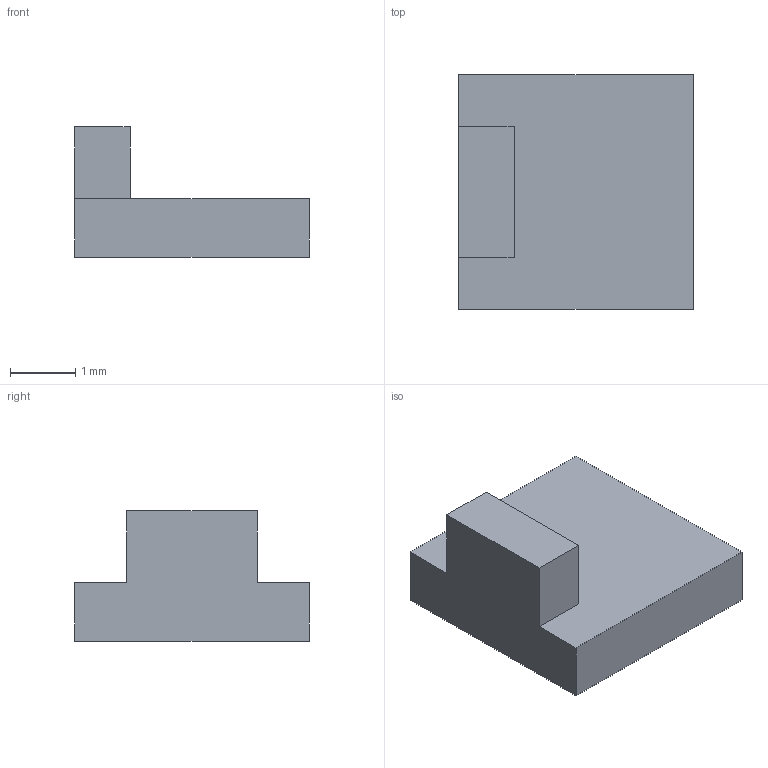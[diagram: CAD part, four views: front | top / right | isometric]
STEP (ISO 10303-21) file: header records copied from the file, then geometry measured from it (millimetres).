
FILE_DESCRIPTION(('Open CASCADE Model'),'2;1');
FILE_NAME('Open CASCADE Shape Model','2026-09-09T11:51:00',('Author'),( 'Open CASCADE'),'Open CASCADE STEP processor 7.7','Open CASCADE 7.7' ,'Unknown');
FILE_SCHEMA(('AUTOMOTIVE_DESIGN { 1 0 10303 214 1 1 1 1 }'));
Length unit declared in the file: millimetre
Products named in the file (1): Open CASCADE STEP translator 7.7 1
Bounding box: 3.6 x 3.6 x 2 mm (x, y, z)
Volume: 13.5 mm3; surface area: 45.1 mm2
Topology: 1 solids, 1 shells, 10 faces, 24 edges, 16 vertices
Faces by surface type: plane 10
Entity records: 610 total; most frequent: CARTESIAN_POINT 99, DIRECTION 94, LINE 72, VECTOR 72, ORIENTED_EDGE 48, PCURVE 48, DEFINITIONAL_REPRESENTATION 48, EDGE_CURVE 24
